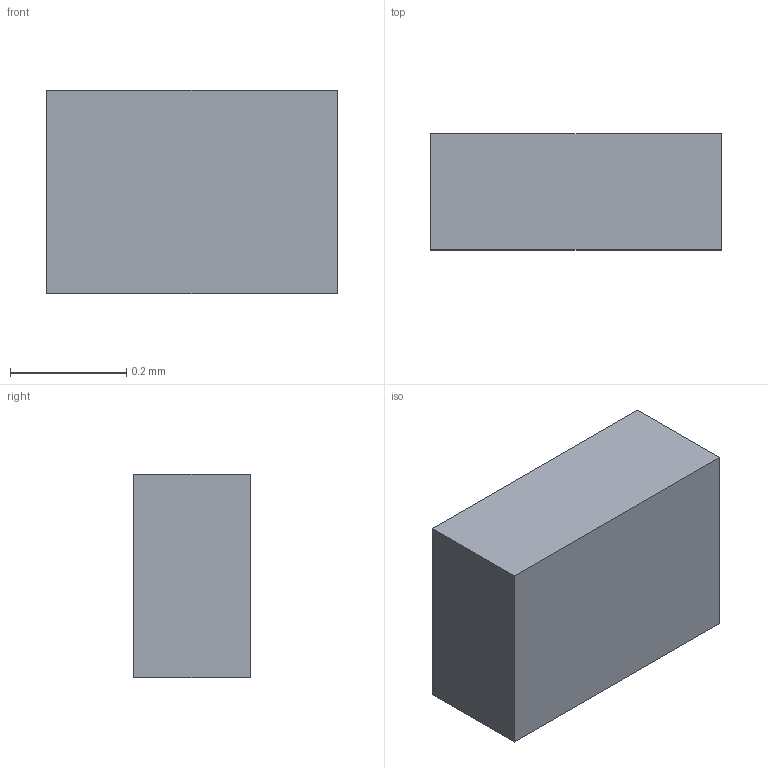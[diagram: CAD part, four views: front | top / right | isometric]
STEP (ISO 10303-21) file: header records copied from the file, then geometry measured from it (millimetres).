
FILE_DESCRIPTION(/* description */ ('STEP AP242 Edition 2','CAx-IF Rec.Pracs.---Representation and Presentation of Product Manufacturing Information (PMI)---4.0---2014-10-13','CAx-IF Rec.Pracs.---3D Tessellated Geometry---0.4---2014-09-14','2;1','CAx-IF Rec.Pracs.---User Defined Attributes---1.5---2016-08-15'),/* implementation_level */ '2;1');
FILE_NAME(/* name */ 'HIRO_Assembly - SMD Resistor, Configurable, Raspberry Pi Pico-R3_R4 (2)',/* time_stamp */ '2026-11-04T05:23:29Z',/* author */ (''),/* organization */ (''),/* preprocessor_version */ 'ST-DEVELOPER v20',/* originating_system */ 'ONSHAPE BY PTC INC, 1.223',/* authorisation */ ' ');
FILE_SCHEMA (('AP242_MANAGED_MODEL_BASED_3D_ENGINEERING_MIM_LF { 1 0 10303 442 3 1 4 }'));
Length unit declared in the file: metre
Products named in the file (1): SMD Resistor, Configurable, Raspberry Pi Pico-R3_R4
Bounding box: 0.5 x 0.2 x 0.35 mm (x, y, z)
Volume: 0 mm3; surface area: 0.7 mm2
Topology: 1 solids, 1 shells, 6 faces, 12 edges, 8 vertices
Faces by surface type: plane 6
Entity records: 178 total; most frequent: CARTESIAN_POINT 27, DIRECTION 26, ORIENTED_EDGE 24, EDGE_CURVE 12, LINE 12, VECTOR 12, VERTEX_POINT 8, AXIS2_PLACEMENT_3D 7
